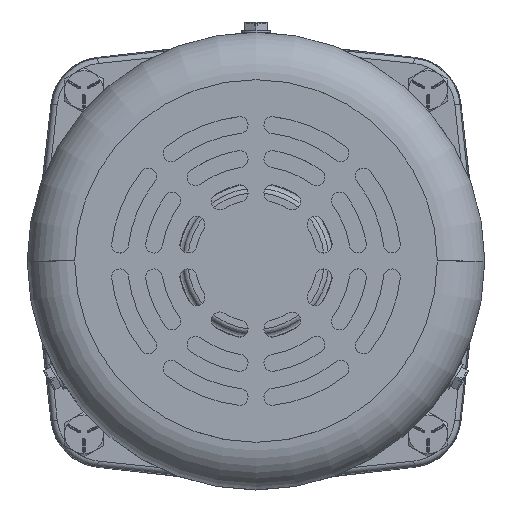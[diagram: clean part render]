
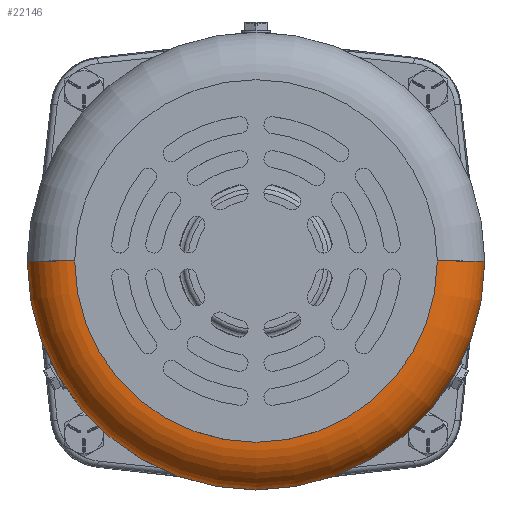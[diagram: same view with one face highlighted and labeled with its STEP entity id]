
A CAD part, top view. The second image highlights one B-rep face of the part: STEP entity #22146.
In plain terms, the highlighted toroidal (fillet/blend) face has major radius 51.943 mm and minor radius 13.589 mm.
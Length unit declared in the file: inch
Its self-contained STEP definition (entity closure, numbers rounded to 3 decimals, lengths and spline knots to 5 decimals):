
#747 = CIRCLE ( 'NONE', #67554, 0.535 ) ;
#2511 = DIRECTION ( 'NONE',  ( 0., 1., 0. ) ) ;
#4123 = CARTESIAN_POINT ( 'NONE',  ( 2.045, 0., -0.2185 ) ) ;
#5138 = CARTESIAN_POINT ( 'NONE',  ( -2.045, 0., 0.3165 ) ) ;
#10285 = CARTESIAN_POINT ( 'NONE',  ( 2.045, 0., 0.3165 ) ) ;
#13990 = AXIS2_PLACEMENT_3D ( 'NONE', #52464, #68471, #43641 ) ;
#14776 = VERTEX_POINT ( 'NONE', #64220 ) ;
#17114 = ORIENTED_EDGE ( 'NONE', *, *, #59482, .F. ) ;
#19439 = CIRCLE ( 'NONE', #13990, 2.045 ) ;
#22146 = ADVANCED_FACE ( 'NONE', ( #85845 ), #98543, .T. ) ;
#23222 = DIRECTION ( 'NONE',  ( 0., 0., 1. ) ) ;
#23621 = VERTEX_POINT ( 'NONE', #10285 ) ;
#23729 = DIRECTION ( 'NONE',  ( 0., 0., -1. ) ) ;
#31830 = DIRECTION ( 'NONE',  ( 1., 0., 0. ) ) ;
#37106 = EDGE_CURVE ( 'NONE', #38486, #23621, #19439, .T. ) ;
#38486 = VERTEX_POINT ( 'NONE', #5138 ) ;
#43641 = DIRECTION ( 'NONE',  ( 1., 0., 0. ) ) ;
#48214 = CARTESIAN_POINT ( 'NONE',  ( -2.58, 0., -0.2185 ) ) ;
#52464 = CARTESIAN_POINT ( 'NONE',  ( 0., 0., 0.3165 ) ) ;
#54427 = ORIENTED_EDGE ( 'NONE', *, *, #37106, .F. ) ;
#55060 = EDGE_CURVE ( 'NONE', #14776, #23621, #74887, .T. ) ;
#59482 = EDGE_CURVE ( 'NONE', #65178, #38486, #747, .T. ) ;
#60974 = DIRECTION ( 'NONE',  ( 0., 0., -1. ) ) ;
#64220 = CARTESIAN_POINT ( 'NONE',  ( 2.58, 0., -0.2185 ) ) ;
#65178 = VERTEX_POINT ( 'NONE', #48214 ) ;
#67554 = AXIS2_PLACEMENT_3D ( 'NONE', #75718, #2511, #91289 ) ;
#68433 = ORIENTED_EDGE ( 'NONE', *, *, #55060, .T. ) ;
#68471 = DIRECTION ( 'NONE',  ( 0., 0., 1. ) ) ;
#74887 = CIRCLE ( 'NONE', #86278, 0.535 ) ;
#75718 = CARTESIAN_POINT ( 'NONE',  ( -2.045, 0., -0.2185 ) ) ;
#78088 = EDGE_LOOP ( 'NONE', ( #17114, #89868, #68433, #54427 ) ) ;
#80184 = CARTESIAN_POINT ( 'NONE',  ( 0., 0., -0.2185 ) ) ;
#85845 = FACE_OUTER_BOUND ( 'NONE', #78088, .T. ) ;
#86278 = AXIS2_PLACEMENT_3D ( 'NONE', #4123, #92557, #60974 ) ;
#86561 = DIRECTION ( 'NONE',  ( 1., 0., 0. ) ) ;
#87085 = CARTESIAN_POINT ( 'NONE',  ( 0., 0., -0.2185 ) ) ;
#89868 = ORIENTED_EDGE ( 'NONE', *, *, #104126, .F. ) ;
#91289 = DIRECTION ( 'NONE',  ( -1., 0., 0. ) ) ;
#92557 = DIRECTION ( 'NONE',  ( 0., -1., 0. ) ) ;
#96151 = AXIS2_PLACEMENT_3D ( 'NONE', #87085, #23729, #31830 ) ;
#98543 = TOROIDAL_SURFACE ( 'NONE', #101093, 2.045, 0.535 ) ;
#101093 = AXIS2_PLACEMENT_3D ( 'NONE', #80184, #23222, #86561 ) ;
#104126 = EDGE_CURVE ( 'NONE', #14776, #65178, #104787, .T. ) ;
#104787 = CIRCLE ( 'NONE', #96151, 2.58 ) ;
